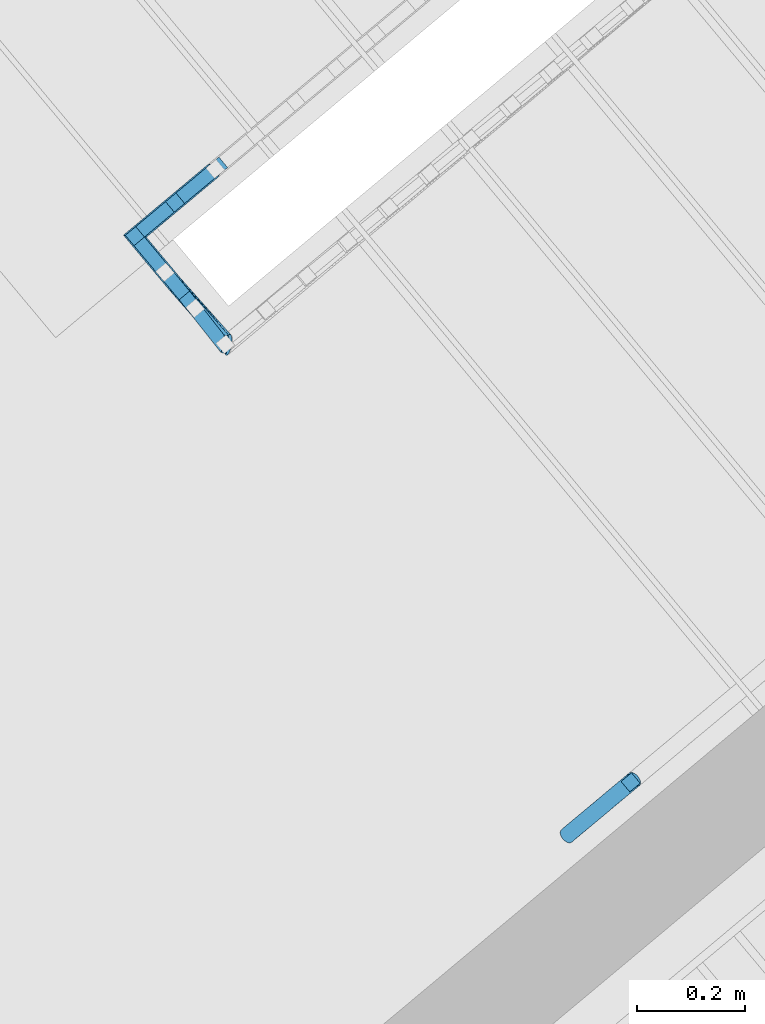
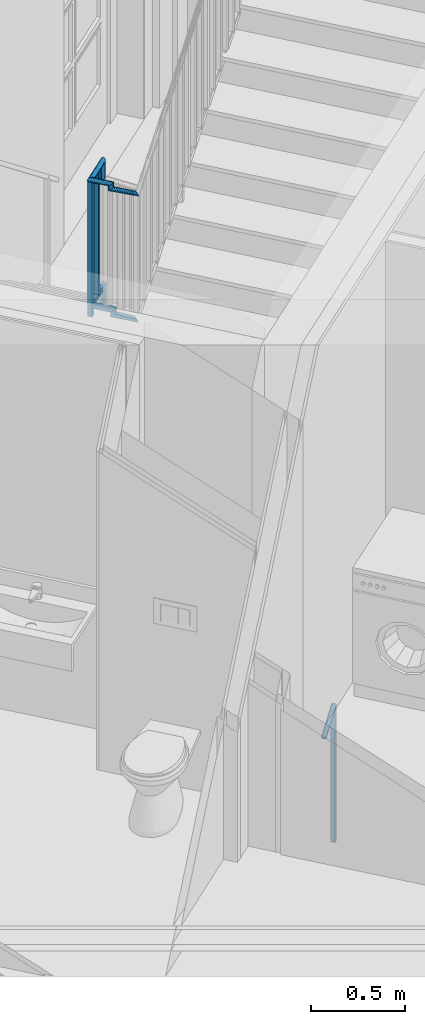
# One storey, part 58 of 75: 10 building element parts, 2 elements without a shape of their own.
"""IFC4 building model written with IfcOpenShell, lengths in metres."""

from ifc_helpers import new_model, entity, si_unit, converted_unit, derived_unit, direction, frame, origin_with_axes, place, context, subcontext, project, spatial, polygons, material, type_object, element, aggregate, save


model = new_model("IFC4")

# Units and contexts
model_context = context("Model", 3, precision=1e-05, world=origin_with_axes(), true_north=direction((0.0, 1.0)))
body_context = subcontext(model_context, "Body", "Model", "MODEL_VIEW")
ifc_project = project(units=[si_unit("LENGTHUNIT", "METRE"), si_unit("AREAUNIT", "SQUARE_METRE"), si_unit("VOLUMEUNIT", "CUBIC_METRE"), converted_unit("PLANEANGLEUNIT", "DEGREE", entity("IfcPlaneAngleMeasure", 0.0174532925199), si_unit("PLANEANGLEUNIT", "RADIAN"), dimensions=[0, 0, 0, 0, 0, 0, 0]), converted_unit("TIMEUNIT", "Year", entity("IfcTimeMeasure", 31556926.0), si_unit("TIMEUNIT", "SECOND"), dimensions=[0, 0, 1, 0, 0, 0, 0]), si_unit("MASSUNIT", "GRAM", prefix="KILO"), si_unit("THERMODYNAMICTEMPERATUREUNIT", "DEGREE_CELSIUS"), si_unit("LUMINOUSINTENSITYUNIT", "LUMEN"), si_unit("ENERGYUNIT", "JOULE", prefix="MEGA"), derived_unit("THERMALCONDUCTANCEUNIT", [(si_unit("POWERUNIT", "WATT"), 1), (si_unit("LENGTHUNIT", "METRE"), -1), (si_unit("THERMODYNAMICTEMPERATUREUNIT", "KELVIN"), -1)]), derived_unit("SPECIFICHEATCAPACITYUNIT", [(si_unit("ENERGYUNIT", "JOULE"), 1), (si_unit("MASSUNIT", "GRAM", prefix="KILO"), -1), (si_unit("THERMODYNAMICTEMPERATUREUNIT", "KELVIN"), -1)]), derived_unit("MASSDENSITYUNIT", [(si_unit("MASSUNIT", "GRAM", prefix="KILO"), 1), (si_unit("VOLUMEUNIT", "CUBIC_METRE"), -1)])], contexts=[model_context])

# Site, building, storey, space
site_placement = place(None, frame((-0.00153261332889, -0.00661245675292, 0.0), z_axis=(0.0, 0.0, 1.0), x_axis=(1.0, 0.0, 0.0)))
site = spatial("IfcSite", under=ifc_project, at=site_placement, Name="Gelände", CompositionType="ELEMENT")
building_placement = place(site_placement, origin_with_axes())
building = spatial("IfcBuilding", under=site, at=building_placement, Name="Gebäude", CompositionType="ELEMENT")
storey_placement = place(building_placement, frame((0.0, 0.0, -0.22), z_axis=(0.0, 0.0, 1.0), x_axis=(1.0, 0.0, 0.0)))
storey = spatial("IfcBuildingStorey", under=building, at=storey_placement, Name="EG", CompositionType="ELEMENT", Elevation=-0.22)
space_placement = place(storey_placement, frame((-1.16508896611, 24.7530172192, 0.22), z_axis=(0.0, 0.0, 1.0), x_axis=(0.641170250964, -0.76739866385, 0.0)))
space = spatial("IfcSpace", under=storey, at=space_placement, CompositionType="ELEMENT", PredefinedType="NOTDEFINED")

# Railing, building element parts
railing_type = type_object("IfcRailingType", Name="Geländerart", PredefinedType="NOTDEFINED")
railing_1_placement = place(space_placement, frame((1.19553434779, -1.19750858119e-08, -0.17), z_axis=(0.0, 0.0, 1.0), x_axis=(0.641170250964, 0.76739866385, 0.0)))
railing_1 = element("IfcRailing", 1, at=railing_1_placement, inside=space, type_object=railing_type, Name="Geländer - 001", PredefinedType="NOTDEFINED")
ifc_material = material(Name="BEKLEIDUNG")
building_element_part_1_placement = place(railing_1_placement, origin_with_axes())
building_element_part_1 = element("IfcBuildingElementPart", 2, at=building_element_part_1_placement, material=ifc_material, Name="BEKLEIDUNG", PredefinedType="NOTDEFINED", context=body_context, shape_type="Tessellation", body=[
    polygons([(-1.83073465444, -1.44815547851, 1.77058823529), (-1.81470539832, -1.46734044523, 1.77058823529), (-1.81470539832, -1.46734044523, 2.65058823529), (-1.83073465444, -1.44815547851, 2.65058823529), (-1.81154968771, -1.43212622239, 1.77058823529), (-1.79552043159, -1.45131118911, 1.77058823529), (-1.79552043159, -1.45131118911, 2.65058823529), (-1.81154968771, -1.43212622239, 2.65058823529)], [[[1, 2, 3, 4]], [[1, 5, 6, 2]], [[2, 6, 7, 3]], [[4, 3, 7, 8]], [[5, 1, 4, 8]], [[6, 5, 8, 7]]], closed=True),
])
building_element_part_2_placement = place(railing_1_placement, origin_with_axes())
building_element_part_2 = element("IfcBuildingElementPart", 3, at=building_element_part_2_placement, material=ifc_material, Name="BEKLEIDUNG", PredefinedType="NOTDEFINED", context=body_context, shape_type="Tessellation", body=[
    polygons([(-1.65806995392, -1.30389217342, 1.7297425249), (-1.67725492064, -1.31992142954, 1.71753377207), (-1.67725492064, -1.31992142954, 1.82808823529), (-1.83073514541, -1.44815588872, 1.82808823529), (-1.83073514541, -1.44815588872, 1.85308823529), (-1.65806995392, -1.30389217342, 1.85308823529), (-1.6420406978, -1.32307714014, 1.7297425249), (-1.66122566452, -1.33910639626, 1.71753377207), (-1.66122566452, -1.33910639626, 1.82808823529), (-1.79551994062, -1.4513107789, 1.82808823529), (-1.79551994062, -1.4513107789, 1.85308823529), (-1.6420406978, -1.32307714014, 1.85308823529)], [[[1, 2, 3, 4, 5, 6]], [[1, 7, 8, 2]], [[2, 8, 9, 3]], [[3, 9, 10, 4]], [[5, 4, 10, 11]], [[12, 6, 5, 11]], [[7, 1, 6, 12]], [[8, 7, 12, 11, 10, 9]]], closed=True),
])
building_element_part_3_placement = place(railing_1_placement, origin_with_axes())
building_element_part_3 = element("IfcBuildingElementPart", 4, at=building_element_part_3_placement, material=ifc_material, Name="BEKLEIDUNG", PredefinedType="NOTDEFINED", context=body_context, shape_type="Tessellation", body=[
    polygons([(-1.66154123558, -1.34262781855, 2.54631289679), (-1.65968848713, -1.34078287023, 2.5475849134), (-1.65968848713, -1.34078287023, 2.65819295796), (-1.66154123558, -1.34262781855, 2.65558823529), (-1.66368620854, -1.34412301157, 2.54504088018), (-1.66605823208, -1.3452230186, 2.54380751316), (-1.66858523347, -1.34589441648, 2.54265027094), (-1.67119043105, -1.34611680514, 2.54160431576), (-1.67379466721, -1.3458834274, 2.54070142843), (-1.67631881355, -1.34520137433, 2.53996904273), (-1.67868617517, -1.34409136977, 2.53942941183), (-1.68082482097, -1.34258714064, 2.53909893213), (-1.68266976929, -1.34073439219, 2.53898764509), (-1.68416496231, -1.33858941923, 2.53909893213), (-1.68526496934, -1.33621739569, 2.53942941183), (-1.68593636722, -1.3336903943, 2.53996904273), (-1.68615875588, -1.33108519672, 2.54070142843), (-1.68592537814, -1.32848096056, 2.54160431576), (-1.68524332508, -1.32595681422, 2.54265027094), (-1.68413332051, -1.3235894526, 2.54380751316), (-1.68262909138, -1.3214508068, 2.54504088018), (-1.68077634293, -1.31960585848, 2.54631289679), (-1.67863136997, -1.31811066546, 2.5475849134), (-1.67625934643, -1.31701065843, 2.54881828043), (-1.67373234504, -1.31633926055, 2.54997552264), (-1.67112714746, -1.31611687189, 2.55102147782), (-1.6685229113, -1.31635024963, 2.55192436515), (-1.66599876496, -1.31703230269, 2.55265675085), (-1.66363140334, -1.31814230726, 2.55319638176), (-1.66149275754, -1.31964653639, 2.55352686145), (-1.65964780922, -1.32149928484, 2.55363814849), (-1.6581526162, -1.3236442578, 2.55352686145), (-1.65705260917, -1.32601628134, 2.55319638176), (-1.65638121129, -1.32854328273, 2.55265675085), (-1.65615882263, -1.33114848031, 2.55192436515), (-1.65639220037, -1.33375271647, 2.55102147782), (-1.65707425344, -1.33627686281, 2.54997552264), (-1.658184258, -1.33864422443, 2.54881828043), (-1.658184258, -1.33864422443, 2.66071853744), (-1.792319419, -1.45159751, 2.65819295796), (-1.79199842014, -1.45162626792, 2.65558823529), (-1.66368620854, -1.34412301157, 2.65298351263), (-1.66605823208, -1.3452230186, 2.65045793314), (-1.66858523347, -1.34589441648, 2.64808823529), (-1.67119043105, -1.34611680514, 2.64594642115), (-1.67379466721, -1.3458834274, 2.64409756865), (-1.67631881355, -1.34520137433, 2.64259785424), (-1.67868617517, -1.34409136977, 2.64149284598), (-1.68082482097, -1.34258714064, 2.640816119), (-1.68266976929, -1.34073439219, 2.64058823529), (-1.68416496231, -1.33858941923, 2.640816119), (-1.68526496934, -1.33621739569, 2.64149284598), (-1.68593636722, -1.3336903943, 2.64259785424), (-1.68615875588, -1.33108519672, 2.64409756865), (-1.68592537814, -1.32848096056, 2.64594642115), (-1.68524332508, -1.32595681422, 2.64808823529), (-1.68413332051, -1.3235894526, 2.65045793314), (-1.68262909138, -1.3214508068, 2.65298351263), (-1.68077634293, -1.31960585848, 2.65558823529), (-1.67863136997, -1.31811066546, 2.65819295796), (-1.67625934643, -1.31701065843, 2.66071853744), (-1.67373234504, -1.31633926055, 2.66308823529), (-1.67112714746, -1.31611687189, 2.66523004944), (-1.6685229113, -1.31635024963, 2.66707890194), (-1.66599876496, -1.31703230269, 2.66857861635), (-1.66363140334, -1.31814230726, 2.66968362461), (-1.66149275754, -1.31964653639, 2.67036035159), (-1.65964780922, -1.32149928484, 2.67058823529), (-1.6581526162, -1.3236442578, 2.67036035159), (-1.65705260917, -1.32601628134, 2.66968362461), (-1.65638121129, -1.32854328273, 2.66857861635), (-1.65615882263, -1.33114848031, 2.66707890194), (-1.65639220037, -1.33375271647, 2.66523004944), (-1.65707425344, -1.33627686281, 2.66308823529), (-1.79327266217, -1.45151211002, 2.66071853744), (-1.79482918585, -1.45137266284, 2.66308823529), (-1.79694169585, -1.45118340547, 2.66523004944), (-1.79954600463, -1.4509500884, 2.66707890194), (-1.80256298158, -1.45067980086, 2.66857861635), (-1.80590095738, -1.45038075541, 2.66968362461), (-1.80945850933, -1.45006203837, 2.67036035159), (-1.81312754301, -1.44973333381, 2.67058823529), (-1.8167965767, -1.44940462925, 2.67036035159), (-1.82035412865, -1.44908591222, 2.66968362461), (-1.82369210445, -1.44878686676, 2.66857861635), (-1.8267090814, -1.44851657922, 2.66707890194), (-1.82931339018, -1.44828326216, 2.66523004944), (-1.83142590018, -1.44809400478, 2.66308823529), (-1.83298242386, -1.4479545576, 2.66071853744), (-1.83393566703, -1.44786915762, 2.65819295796), (-1.83425666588, -1.4478403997, 2.65558823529), (-1.83393566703, -1.44786915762, 2.65298351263), (-1.83298242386, -1.4479545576, 2.65045793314), (-1.83142590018, -1.44809400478, 2.64808823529), (-1.82931339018, -1.44828326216, 2.64594642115), (-1.8267090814, -1.44851657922, 2.64409756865), (-1.82369210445, -1.44878686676, 2.64259785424), (-1.82035412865, -1.44908591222, 2.64149284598), (-1.8167965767, -1.44940462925, 2.640816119), (-1.81312754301, -1.44973333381, 2.64058823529), (-1.80945850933, -1.45006203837, 2.640816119), (-1.80590095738, -1.45038075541, 2.64149284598), (-1.80256298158, -1.45067980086, 2.64259785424), (-1.79954600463, -1.4509500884, 2.64409756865), (-1.79694169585, -1.45118340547, 2.64594642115), (-1.79482918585, -1.45137266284, 2.64808823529), (-1.79327266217, -1.45151211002, 2.65045793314), (-1.792319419, -1.45159751, 2.65298351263)], [[[1, 2, 3, 4]], [[1, 5, 6, 7, 8, 9, 10, 11, 12, 13, 14, 15, 16, 17, 18, 19, 20, 21, 22, 23, 24, 25, 26, 27, 28, 29, 30, 31, 32, 33, 34, 35, 36, 37, 38, 2]], [[2, 38, 39, 3]], [[4, 3, 40, 41]], [[5, 1, 4, 42]], [[6, 5, 42, 43]], [[7, 6, 43, 44]], [[8, 7, 44, 45]], [[9, 8, 45, 46]], [[10, 9, 46, 47]], [[11, 10, 47, 48]], [[12, 11, 48, 49]], [[13, 12, 49, 50]], [[14, 13, 50, 51]], [[15, 14, 51, 52]], [[16, 15, 52, 53]], [[17, 16, 53, 54]], [[18, 17, 54, 55]], [[19, 18, 55, 56]], [[20, 19, 56, 57]], [[21, 20, 57, 58]], [[22, 21, 58, 59]], [[23, 22, 59, 60]], [[24, 23, 60, 61]], [[25, 24, 61, 62]], [[26, 25, 62, 63]], [[27, 26, 63, 64]], [[28, 27, 64, 65]], [[29, 28, 65, 66]], [[30, 29, 66, 67]], [[31, 30, 67, 68]], [[32, 31, 68, 69]], [[33, 32, 69, 70]], [[34, 33, 70, 71]], [[35, 34, 71, 72]], [[36, 35, 72, 73]], [[37, 36, 73, 74]], [[38, 37, 74, 39]], [[3, 39, 75, 40]], [[41, 40, 75, 76, 77, 78, 79, 80, 81, 82, 83, 84, 85, 86, 87, 88, 89, 90, 91, 92, 93, 94, 95, 96, 97, 98, 99, 100, 101, 102, 103, 104, 105, 106, 107, 108]], [[42, 4, 41, 108]], [[43, 42, 108, 107]], [[44, 43, 107, 106]], [[45, 44, 106, 105]], [[46, 45, 105, 104]], [[47, 46, 104, 103]], [[48, 47, 103, 102]], [[49, 48, 102, 101]], [[50, 49, 101, 100]], [[51, 50, 100, 99]], [[52, 51, 99, 98]], [[53, 52, 98, 97]], [[54, 53, 97, 96]], [[55, 54, 96, 95]], [[56, 55, 95, 94]], [[57, 56, 94, 93]], [[58, 57, 93, 92]], [[59, 58, 92, 91]], [[60, 59, 91, 90]], [[61, 60, 90, 89]], [[62, 61, 89, 88]], [[63, 62, 88, 87]], [[64, 63, 87, 86]], [[65, 64, 86, 85]], [[66, 65, 85, 84]], [[67, 66, 84, 83]], [[68, 67, 83, 82]], [[69, 68, 82, 81]], [[70, 69, 81, 80]], [[71, 70, 80, 79]], [[72, 71, 79, 78]], [[73, 72, 78, 77]], [[74, 73, 77, 76]], [[39, 74, 76, 75]]], closed=True),
])
building_element_part_4_placement = place(railing_1_placement, origin_with_axes())
building_element_part_4 = element("IfcBuildingElementPart", 5, at=building_element_part_4_placement, material=ifc_material, Name="BEKLEIDUNG", PredefinedType="NOTDEFINED", context=body_context, shape_type="Tessellation", body=[
    polygons([(-1.73136158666, -1.5670809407, 1.85308823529), (-1.74739182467, -1.5478967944, 1.82808823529), (-1.74739182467, -1.5478967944, 1.79739887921), (-1.73136158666, -1.5670809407, 1.82239887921), (-1.71217744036, -1.55105070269, 1.85308823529), (-1.72820767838, -1.53186655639, 1.82808823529), (-1.72820767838, -1.53186655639, 1.79739887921), (-1.64445279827, -1.66621433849, 1.79779595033), (-1.71217744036, -1.55105070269, 1.82239887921), (-1.63893066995, -1.63383411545, 1.79779595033), (-1.6539527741, -1.66459421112, 1.82200180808), (-1.64843064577, -1.63221398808, 1.82200180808)], [[[1, 2, 3, 4]], [[1, 5, 6, 2]], [[2, 6, 7, 3]], [[4, 3, 8]], [[5, 1, 4, 9]], [[6, 5, 9, 7]], [[3, 7, 10]], [[3, 10, 8]], [[4, 8, 11]], [[9, 4, 11]], [[7, 9, 12]], [[7, 12, 10]], [[11, 8, 10, 12]], [[9, 11, 12]]], closed=True),
])
building_element_part_5_placement = place(railing_1_placement, origin_with_axes())
building_element_part_5 = element("IfcBuildingElementPart", 6, at=building_element_part_5_placement, material=ifc_material, Name="BEKLEIDUNG", PredefinedType="NOTDEFINED", context=body_context, shape_type="Tessellation", body=[
    polygons([(-1.72789228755, -1.52834511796, 2.65558823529), (-1.72639698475, -1.53049001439, 2.65819295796), (-1.72639698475, -1.53049001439, 2.62750360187), (-1.72789228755, -1.52834511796, 2.62489887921), (-1.72973733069, -1.52649246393, 2.65298351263), (-1.73187605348, -1.52498834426, 2.65045793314), (-1.7342434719, -1.52387846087, 2.64808823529), (-1.73676765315, -1.52319653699, 2.64594642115), (-1.73937190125, -1.52296329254, 2.64409756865), (-1.74197708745, -1.52318581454, 2.64259785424), (-1.74450405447, -1.52385734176, 2.64149284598), (-1.74687602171, -1.52495747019, 2.640816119), (-1.74902091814, -1.52645277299, 2.64058823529), (-1.75087357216, -1.52829781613, 2.640816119), (-1.75237769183, -1.53043653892, 2.64149284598), (-1.75348757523, -1.53280395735, 2.64259785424), (-1.7541694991, -1.53532813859, 2.64409756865), (-1.75440274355, -1.53793238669, 2.64594642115), (-1.75418022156, -1.54053757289, 2.64808823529), (-1.75350869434, -1.54306453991, 2.65045793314), (-1.7524085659, -1.54543650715, 2.65298351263), (-1.75091326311, -1.54758140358, 2.65558823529), (-1.74906821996, -1.5494340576, 2.65819295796), (-1.74692949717, -1.55093817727, 2.66071853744), (-1.74456207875, -1.55204806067, 2.66308823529), (-1.7420378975, -1.55272998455, 2.66523004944), (-1.7394336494, -1.55296322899, 2.66707890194), (-1.73682846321, -1.552740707, 2.66857861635), (-1.73430149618, -1.55206917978, 2.66968362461), (-1.73192952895, -1.55096905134, 2.67036035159), (-1.72978463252, -1.54947374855, 2.67058823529), (-1.72793197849, -1.5476287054, 2.67036035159), (-1.72642785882, -1.54548998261, 2.66968362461), (-1.72531797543, -1.54312256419, 2.66857861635), (-1.72463605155, -1.54059838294, 2.66707890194), (-1.7244028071, -1.53799413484, 2.66523004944), (-1.7246253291, -1.53538894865, 2.66308823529), (-1.72529685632, -1.53286198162, 2.66071853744), (-1.72529685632, -1.53286198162, 2.63002918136), (-1.63846858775, -1.63088446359, 2.62789734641), (-1.72973733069, -1.52649246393, 2.62229415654), (-1.73187605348, -1.52498834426, 2.61976857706), (-1.7342434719, -1.52387846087, 2.61739887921), (-1.73676765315, -1.52319653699, 2.61525706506), (-1.73937190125, -1.52296329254, 2.61340821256), (-1.74197708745, -1.52318581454, 2.61190849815), (-1.74450405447, -1.52385734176, 2.6108034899), (-1.74687602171, -1.52495747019, 2.61012676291), (-1.74902091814, -1.52645277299, 2.60989887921), (-1.75087357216, -1.52829781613, 2.61012676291), (-1.75237769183, -1.53043653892, 2.6108034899), (-1.75348757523, -1.53280395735, 2.61190849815), (-1.7541694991, -1.53532813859, 2.61340821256), (-1.75440274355, -1.53793238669, 2.61525706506), (-1.75418022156, -1.54053757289, 2.61739887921), (-1.75350869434, -1.54306453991, 2.61976857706), (-1.7524085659, -1.54543650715, 2.62229415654), (-1.75091326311, -1.54758140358, 2.62489887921), (-1.74906821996, -1.5494340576, 2.62750360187), (-1.74692949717, -1.55093817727, 2.63002918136), (-1.74456207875, -1.55204806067, 2.63239887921), (-1.7420378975, -1.55272998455, 2.63454069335), (-1.7394336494, -1.55296322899, 2.63638954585), (-1.73682846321, -1.552740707, 2.63788926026), (-1.73430149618, -1.55206917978, 2.63899426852), (-1.73192952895, -1.55096905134, 2.6396709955), (-1.72978463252, -1.54947374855, 2.63989887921), (-1.72793197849, -1.5476287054, 2.6396709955), (-1.72642785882, -1.54548998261, 2.63899426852), (-1.72531797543, -1.54312256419, 2.63788926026), (-1.72463605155, -1.54059838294, 2.63638954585), (-1.7244028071, -1.53799413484, 2.63454069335), (-1.7246253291, -1.53538894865, 2.63239887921), (-1.63957778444, -1.631597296, 2.63034269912), (-1.63742845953, -1.63075810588, 2.62537536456), (-1.63648900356, -1.63122206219, 2.62285338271), (-1.63567876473, -1.63226223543, 2.62040803), (-1.63502236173, -1.63384702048, 2.61811360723), (-1.63453973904, -1.63592826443, 2.61603982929), (-1.63424556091, -1.63844272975, 2.61424970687), (-1.63414876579, -1.64131401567, 2.61279763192), (-1.63425229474, -1.64445487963, 2.61172772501), (-1.63455300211, -1.64776988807, 2.61107249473), (-1.63504175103, -1.65115831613, 2.61085184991), (-1.63570369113, -1.65451720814, 2.61107249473), (-1.63651870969, -1.65774450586, 2.61172772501), (-1.63746204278, -1.66074214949, 2.61279763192), (-1.63850502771, -1.66341905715, 2.61424970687), (-1.63961597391, -1.66569389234, 2.61603982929), (-1.64076112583, -1.66749753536, 2.61811360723), (-1.64190568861, -1.66877518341, 2.62040803), (-1.64301488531, -1.66948801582, 2.62285338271), (-1.64405501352, -1.66961437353, 2.62537536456), (-1.64499446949, -1.66915041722, 2.62789734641), (-1.64580470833, -1.66811024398, 2.63034269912), (-1.64646111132, -1.66652545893, 2.63263712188), (-1.64694373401, -1.66444421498, 2.63471089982), (-1.64723791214, -1.66192974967, 2.63650102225), (-1.64733470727, -1.65905846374, 2.6379530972), (-1.64723117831, -1.65591759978, 2.6390230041), (-1.64693047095, -1.65260259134, 2.63967823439), (-1.64644172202, -1.64921416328, 2.63989887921), (-1.64577978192, -1.64585527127, 2.63967823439), (-1.64496476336, -1.64262797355, 2.6390230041), (-1.64402143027, -1.63963032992, 2.6379530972), (-1.64297844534, -1.63695342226, 2.63650102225), (-1.64186749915, -1.63467858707, 2.63471089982), (-1.64072234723, -1.63287494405, 2.63263712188)], [[[1, 2, 3, 4]], [[1, 5, 6, 7, 8, 9, 10, 11, 12, 13, 14, 15, 16, 17, 18, 19, 20, 21, 22, 23, 24, 25, 26, 27, 28, 29, 30, 31, 32, 33, 34, 35, 36, 37, 38, 2]], [[2, 38, 39, 3]], [[4, 3, 40]], [[5, 1, 4, 41]], [[6, 5, 41, 42]], [[7, 6, 42, 43]], [[8, 7, 43, 44]], [[9, 8, 44, 45]], [[10, 9, 45, 46]], [[11, 10, 46, 47]], [[12, 11, 47, 48]], [[13, 12, 48, 49]], [[14, 13, 49, 50]], [[15, 14, 50, 51]], [[16, 15, 51, 52]], [[17, 16, 52, 53]], [[18, 17, 53, 54]], [[19, 18, 54, 55]], [[20, 19, 55, 56]], [[21, 20, 56, 57]], [[22, 21, 57, 58]], [[23, 22, 58, 59]], [[24, 23, 59, 60]], [[25, 24, 60, 61]], [[26, 25, 61, 62]], [[27, 26, 62, 63]], [[28, 27, 63, 64]], [[29, 28, 64, 65]], [[30, 29, 65, 66]], [[31, 30, 66, 67]], [[32, 31, 67, 68]], [[33, 32, 68, 69]], [[34, 33, 69, 70]], [[35, 34, 70, 71]], [[36, 35, 71, 72]], [[37, 36, 72, 73]], [[38, 37, 73, 39]], [[3, 39, 74]], [[3, 74, 40]], [[4, 40, 75]], [[41, 4, 75]], [[42, 41, 76]], [[43, 42, 77]], [[44, 43, 78]], [[45, 44, 79]], [[46, 45, 80]], [[47, 46, 81]], [[48, 47, 82]], [[49, 48, 83]], [[50, 49, 84]], [[51, 50, 85]], [[52, 51, 86]], [[53, 52, 87]], [[54, 53, 88]], [[55, 54, 89]], [[56, 55, 90]], [[57, 56, 91]], [[58, 57, 92]], [[59, 58, 93]], [[60, 59, 94]], [[61, 60, 95]], [[62, 61, 96]], [[63, 62, 97]], [[64, 63, 98]], [[65, 64, 99]], [[66, 65, 100]], [[67, 66, 101]], [[68, 67, 102]], [[69, 68, 103]], [[70, 69, 104]], [[71, 70, 105]], [[72, 71, 106]], [[73, 72, 107]], [[39, 73, 108]], [[39, 108, 74]], [[75, 40, 74, 108, 107, 106, 105, 104, 103, 102, 101, 100, 99, 98, 97, 96, 95, 94, 93, 92, 91, 90, 89, 88, 87, 86, 85, 84, 83, 82, 81, 80, 79, 78, 77, 76]], [[41, 75, 76]], [[42, 76, 77]], [[43, 77, 78]], [[44, 78, 79]], [[45, 79, 80]], [[46, 80, 81]], [[47, 81, 82]], [[48, 82, 83]], [[49, 83, 84]], [[50, 84, 85]], [[51, 85, 86]], [[52, 86, 87]], [[53, 87, 88]], [[54, 88, 89]], [[55, 89, 90]], [[56, 90, 91]], [[57, 91, 92]], [[58, 92, 93]], [[59, 93, 94]], [[60, 94, 95]], [[61, 95, 96]], [[62, 96, 97]], [[63, 97, 98]], [[64, 98, 99]], [[65, 99, 100]], [[66, 100, 101]], [[67, 101, 102]], [[68, 102, 103]], [[69, 103, 104]], [[70, 104, 105]], [[71, 105, 106]], [[72, 106, 107]], [[73, 107, 108]]], closed=True),
])
building_element_part_6_placement = place(railing_1_placement, origin_with_axes())
building_element_part_6 = element("IfcBuildingElementPart", 7, at=building_element_part_6_placement, material=ifc_material, Name="BEKLEIDUNG", PredefinedType="NOTDEFINED", context=body_context, shape_type="Tessellation", body=[
    polygons([(-1.75652344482, -1.38615117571, 1.84058823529), (-1.7404941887, -1.40533614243, 1.84058823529), (-1.7404941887, -1.40533614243, 2.64808823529), (-1.75652344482, -1.38615117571, 2.64808823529), (-1.7373384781, -1.37012191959, 1.84058823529), (-1.72130922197, -1.38930688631, 1.84058823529), (-1.72130922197, -1.38930688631, 2.64808823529), (-1.7373384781, -1.37012191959, 2.64808823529)], [[[1, 2, 3, 4]], [[1, 5, 6, 2]], [[2, 6, 7, 3]], [[4, 3, 7, 8]], [[5, 1, 4, 8]], [[6, 5, 8, 7]]], closed=True),
])
building_element_part_7_placement = place(railing_1_placement, origin_with_axes())
building_element_part_7 = element("IfcBuildingElementPart", 8, at=building_element_part_7_placement, material=ifc_material, Name="BEKLEIDUNG", PredefinedType="NOTDEFINED", context=body_context, shape_type="Tessellation", body=[
    polygons([(-1.79199842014, -1.45162626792, 2.65558823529), (-1.792319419, -1.45159751, 2.65819295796), (-1.72639698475, -1.53049001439, 2.65819295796), (-1.72789228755, -1.52834511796, 2.65558823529), (-1.792319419, -1.45159751, 2.65298351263), (-1.79327266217, -1.45151211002, 2.65045793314), (-1.79482918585, -1.45137266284, 2.64808823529), (-1.79694169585, -1.45118340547, 2.64594642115), (-1.79954600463, -1.4509500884, 2.64409756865), (-1.80256298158, -1.45067980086, 2.64259785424), (-1.80590095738, -1.45038075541, 2.64149284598), (-1.80945850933, -1.45006203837, 2.640816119), (-1.81312754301, -1.44973333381, 2.64058823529), (-1.8167965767, -1.44940462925, 2.640816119), (-1.82035412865, -1.44908591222, 2.64149284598), (-1.82369210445, -1.44878686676, 2.64259785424), (-1.8267090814, -1.44851657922, 2.64409756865), (-1.82931339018, -1.44828326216, 2.64594642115), (-1.83142590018, -1.44809400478, 2.64808823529), (-1.83298242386, -1.4479545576, 2.65045793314), (-1.83393566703, -1.44786915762, 2.65298351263), (-1.83425666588, -1.4478403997, 2.65558823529), (-1.83393566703, -1.44786915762, 2.65819295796), (-1.83298242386, -1.4479545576, 2.66071853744), (-1.83142590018, -1.44809400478, 2.66308823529), (-1.82931339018, -1.44828326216, 2.66523004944), (-1.8267090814, -1.44851657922, 2.66707890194), (-1.82369210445, -1.44878686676, 2.66857861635), (-1.82035412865, -1.44908591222, 2.66968362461), (-1.8167965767, -1.44940462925, 2.67036035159), (-1.81312754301, -1.44973333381, 2.67058823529), (-1.80945850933, -1.45006203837, 2.67036035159), (-1.80590095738, -1.45038075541, 2.66968362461), (-1.80256298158, -1.45067980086, 2.66857861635), (-1.79954600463, -1.4509500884, 2.66707890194), (-1.79694169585, -1.45118340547, 2.66523004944), (-1.79482918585, -1.45137266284, 2.66308823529), (-1.79327266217, -1.45151211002, 2.66071853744), (-1.72529685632, -1.53286198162, 2.66071853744), (-1.7246253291, -1.53538894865, 2.66308823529), (-1.7244028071, -1.53799413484, 2.66523004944), (-1.72463605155, -1.54059838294, 2.66707890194), (-1.72531797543, -1.54312256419, 2.66857861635), (-1.72642785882, -1.54548998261, 2.66968362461), (-1.72793197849, -1.5476287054, 2.67036035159), (-1.72978463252, -1.54947374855, 2.67058823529), (-1.73192952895, -1.55096905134, 2.67036035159), (-1.73430149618, -1.55206917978, 2.66968362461), (-1.73682846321, -1.552740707, 2.66857861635), (-1.7394336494, -1.55296322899, 2.66707890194), (-1.7420378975, -1.55272998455, 2.66523004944), (-1.74456207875, -1.55204806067, 2.66308823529), (-1.74692949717, -1.55093817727, 2.66071853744), (-1.74906821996, -1.5494340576, 2.65819295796), (-1.75091326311, -1.54758140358, 2.65558823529), (-1.7524085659, -1.54543650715, 2.65298351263), (-1.75350869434, -1.54306453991, 2.65045793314), (-1.75418022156, -1.54053757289, 2.64808823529), (-1.75440274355, -1.53793238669, 2.64594642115), (-1.7541694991, -1.53532813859, 2.64409756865), (-1.75348757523, -1.53280395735, 2.64259785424), (-1.75237769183, -1.53043653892, 2.64149284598), (-1.75087357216, -1.52829781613, 2.640816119), (-1.74902091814, -1.52645277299, 2.64058823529), (-1.74687602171, -1.52495747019, 2.640816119), (-1.74450405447, -1.52385734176, 2.64149284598), (-1.74197708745, -1.52318581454, 2.64259785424), (-1.73937190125, -1.52296329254, 2.64409756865), (-1.73676765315, -1.52319653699, 2.64594642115), (-1.7342434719, -1.52387846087, 2.64808823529), (-1.73187605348, -1.52498834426, 2.65045793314), (-1.72973733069, -1.52649246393, 2.65298351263)], [[[1, 2, 3, 4]], [[1, 5, 6, 7, 8, 9, 10, 11, 12, 13, 14, 15, 16, 17, 18, 19, 20, 21, 22, 23, 24, 25, 26, 27, 28, 29, 30, 31, 32, 33, 34, 35, 36, 37, 38, 2]], [[2, 38, 39, 3]], [[4, 3, 39, 40, 41, 42, 43, 44, 45, 46, 47, 48, 49, 50, 51, 52, 53, 54, 55, 56, 57, 58, 59, 60, 61, 62, 63, 64, 65, 66, 67, 68, 69, 70, 71, 72]], [[5, 1, 4, 72]], [[6, 5, 72, 71]], [[7, 6, 71, 70]], [[8, 7, 70, 69]], [[9, 8, 69, 68]], [[10, 9, 68, 67]], [[11, 10, 67, 66]], [[12, 11, 66, 65]], [[13, 12, 65, 64]], [[14, 13, 64, 63]], [[15, 14, 63, 62]], [[16, 15, 62, 61]], [[17, 16, 61, 60]], [[18, 17, 60, 59]], [[19, 18, 59, 58]], [[20, 19, 58, 57]], [[21, 20, 57, 56]], [[22, 21, 56, 55]], [[23, 22, 55, 54]], [[24, 23, 54, 53]], [[25, 24, 53, 52]], [[26, 25, 52, 51]], [[27, 26, 51, 50]], [[28, 27, 50, 49]], [[29, 28, 49, 48]], [[30, 29, 48, 47]], [[31, 30, 47, 46]], [[32, 31, 46, 45]], [[33, 32, 45, 44]], [[34, 33, 44, 43]], [[35, 34, 43, 42]], [[36, 35, 42, 41]], [[37, 36, 41, 40]], [[38, 37, 40, 39]]], closed=True),
])
building_element_part_8_placement = place(railing_1_placement, origin_with_axes())
building_element_part_8 = element("IfcBuildingElementPart", 9, at=building_element_part_8_placement, material=ifc_material, Name="BEKLEIDUNG", PredefinedType="NOTDEFINED", context=body_context, shape_type="Tessellation", body=[
    polygons([(-1.83073514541, -1.44815588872, 1.85308823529), (-1.83073514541, -1.44815588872, 1.82808823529), (-1.74739182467, -1.5478967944, 1.82808823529), (-1.73136158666, -1.5670809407, 1.85308823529), (-1.79551994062, -1.4513107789, 1.85308823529), (-1.79551994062, -1.4513107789, 1.82808823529), (-1.72820767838, -1.53186655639, 1.82808823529), (-1.71217744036, -1.55105070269, 1.85308823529)], [[[1, 2, 3, 4]], [[1, 5, 6, 2]], [[2, 6, 7, 3]], [[4, 3, 7, 8]], [[5, 1, 4, 8]], [[6, 5, 8, 7]]], closed=True),
])
aggregate(railing_1, [building_element_part_1, building_element_part_2, building_element_part_3, building_element_part_4, building_element_part_5, building_element_part_6, building_element_part_7, building_element_part_8])

railing_2_placement = place(space_placement, frame((2.55537213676, -0.0246817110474, -1.53333333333), z_axis=(0.0, 0.0, 1.0), x_axis=(0.641170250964, 0.76739866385, 0.0)))
railing_2 = element("IfcRailing", 10, at=railing_2_placement, inside=space, type_object=railing_type, Name="Geländer - 001", PredefinedType="NOTDEFINED")
building_element_part_9_placement = place(railing_2_placement, origin_with_axes())
building_element_part_9 = element("IfcBuildingElementPart", 11, at=building_element_part_9_placement, material=ifc_material, Name="BEKLEIDUNG", PredefinedType="NOTDEFINED", context=body_context, shape_type="Tessellation", body=[
    polygons([(-1.76887454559, -1.39662091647, 0.0), (-1.75284430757, -1.41580506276, 0.0), (-1.75284430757, -1.41580506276, 0.87109684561), (-1.76887454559, -1.39662091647, 0.87109684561), (-1.74969039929, -1.38059067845, 0.0), (-1.73366016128, -1.39977482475, 0.0), (-1.73366016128, -1.39977482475, 0.88890315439), (-1.74969039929, -1.38059067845, 0.88890315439)], [[[1, 2, 3, 4]], [[1, 5, 6, 2]], [[2, 6, 7, 3]], [[4, 3, 7, 8]], [[5, 1, 4, 8]], [[6, 5, 8, 7]]], closed=True),
])
building_element_part_10_placement = place(railing_2_placement, origin_with_axes())
building_element_part_10 = element("IfcBuildingElementPart", 12, at=building_element_part_10_placement, material=ifc_material, Name="BEKLEIDUNG", PredefinedType="NOTDEFINED", context=body_context, shape_type="Tessellation", body=[
    polygons([(-1.73497150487, -1.40412847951, 0.8877822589), (-1.7362771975, -1.40492254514, 0.889903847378), (-1.8612835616, -1.50937763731, 0.773875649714), (-1.85997786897, -1.50858357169, 0.771754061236), (-1.73395805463, -1.40298467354, 0.885660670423), (-1.73326763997, -1.40152588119, 0.883603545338), (-1.73292123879, -1.39979642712, 0.881673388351), (-1.7329293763, -1.39784885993, 0.879928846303), (-1.73329180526, -1.39574235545, 0.878422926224), (-1.73399751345, -1.39354091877, 0.877201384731), (-1.73502505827, -1.39131143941, 0.876301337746), (-1.7363432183, -1.38912165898, 0.875750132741), (-1.73791194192, -1.38703811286, 0.875564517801), (-1.73968356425, -1.38512410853, 0.875750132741), (-1.74160425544, -1.38343780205, 0.876301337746), (-1.74361565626, -1.38203043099, 0.877201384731), (-1.74565665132, -1.3809447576, 0.878422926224), (-1.74766522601, -1.38021376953, 0.879928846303), (-1.74958035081, -1.37985967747, 0.881673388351), (-1.75134383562, -1.37989324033, 0.883603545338), (-1.75290209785, -1.38031343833, 0.885660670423), (-1.75420779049, -1.38110750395, 0.8877822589), (-1.75522124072, -1.38225130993, 0.889903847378), (-1.75591165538, -1.38371010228, 0.891960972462), (-1.75625805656, -1.38543955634, 0.89389112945), (-1.75624991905, -1.38738712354, 0.895635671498), (-1.75588749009, -1.38949362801, 0.897141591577), (-1.7551817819, -1.3916950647, 0.89836313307), (-1.75415423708, -1.39392454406, 0.899263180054), (-1.75283607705, -1.39611432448, 0.89981438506), (-1.75126735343, -1.39819787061, 0.9), (-1.74949573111, -1.40011187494, 0.89981438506), (-1.74757503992, -1.40179818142, 0.899263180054), (-1.7455636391, -1.40320555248, 0.89836313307), (-1.74352264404, -1.40429122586, 0.897141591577), (-1.74151406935, -1.40502221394, 0.895635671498), (-1.73959894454, -1.405376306, 0.89389112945), (-1.73783545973, -1.40534274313, 0.891960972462), (-1.86284182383, -1.50979783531, 0.775932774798), (-1.86460530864, -1.50983139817, 0.777862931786), (-1.86652043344, -1.50947730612, 0.779607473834), (-1.86852900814, -1.50874631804, 0.781113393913), (-1.87057000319, -1.50766064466, 0.782334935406), (-1.87258140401, -1.50625327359, 0.78323498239), (-1.8745020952, -1.50456696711, 0.783786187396), (-1.87627371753, -1.50265296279, 0.783971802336), (-1.87784244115, -1.50056941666, 0.783786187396), (-1.87916060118, -1.49837963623, 0.78323498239), (-1.880188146, -1.49615015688, 0.782334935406), (-1.88089385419, -1.49394872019, 0.781113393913), (-1.88125628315, -1.49184221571, 0.779607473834), (-1.88126442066, -1.48989464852, 0.777862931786), (-1.88091801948, -1.48816519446, 0.775932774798), (-1.88022760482, -1.4867064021, 0.773875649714), (-1.87921415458, -1.48556259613, 0.771754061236), (-1.87790846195, -1.48476853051, 0.769632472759), (-1.87635019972, -1.48434833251, 0.767575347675), (-1.87458671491, -1.48431476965, 0.765645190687), (-1.87267159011, -1.48466886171, 0.763900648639), (-1.87066301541, -1.48539984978, 0.76239472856), (-1.86862202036, -1.48648552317, 0.761173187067), (-1.86661061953, -1.48789289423, 0.760273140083), (-1.86468992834, -1.48957920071, 0.759721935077), (-1.86291830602, -1.49149320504, 0.759536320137), (-1.8613495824, -1.49357675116, 0.759721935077), (-1.86003142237, -1.49576653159, 0.760273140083), (-1.85900387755, -1.49799601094, 0.761173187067), (-1.85829816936, -1.50019744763, 0.76239472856), (-1.8579357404, -1.50230395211, 0.763900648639), (-1.85792760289, -1.5042515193, 0.765645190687), (-1.85827400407, -1.50598097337, 0.767575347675), (-1.85896441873, -1.50743976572, 0.769632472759)], [[[1, 2, 3, 4]], [[1, 5, 6, 7, 8, 9, 10, 11, 12, 13, 14, 15, 16, 17, 18, 19, 20, 21, 22, 23, 24, 25, 26, 27, 28, 29, 30, 31, 32, 33, 34, 35, 36, 37, 38, 2]], [[2, 38, 39, 3]], [[4, 3, 39, 40, 41, 42, 43, 44, 45, 46, 47, 48, 49, 50, 51, 52, 53, 54, 55, 56, 57, 58, 59, 60, 61, 62, 63, 64, 65, 66, 67, 68, 69, 70, 71, 72]], [[5, 1, 4, 72]], [[6, 5, 72, 71]], [[7, 6, 71, 70]], [[8, 7, 70, 69]], [[9, 8, 69, 68]], [[10, 9, 68, 67]], [[11, 10, 67, 66]], [[12, 11, 66, 65]], [[13, 12, 65, 64]], [[14, 13, 64, 63]], [[15, 14, 63, 62]], [[16, 15, 62, 61]], [[17, 16, 61, 60]], [[18, 17, 60, 59]], [[19, 18, 59, 58]], [[20, 19, 58, 57]], [[21, 20, 57, 56]], [[22, 21, 56, 55]], [[23, 22, 55, 54]], [[24, 23, 54, 53]], [[25, 24, 53, 52]], [[26, 25, 52, 51]], [[27, 26, 51, 50]], [[28, 27, 50, 49]], [[29, 28, 49, 48]], [[30, 29, 48, 47]], [[31, 30, 47, 46]], [[32, 31, 46, 45]], [[33, 32, 45, 44]], [[34, 33, 44, 43]], [[35, 34, 43, 42]], [[36, 35, 42, 41]], [[37, 36, 41, 40]], [[38, 37, 40, 39]]], closed=True),
])
aggregate(railing_2, [building_element_part_9, building_element_part_10])

save(model, "model.ifc")
